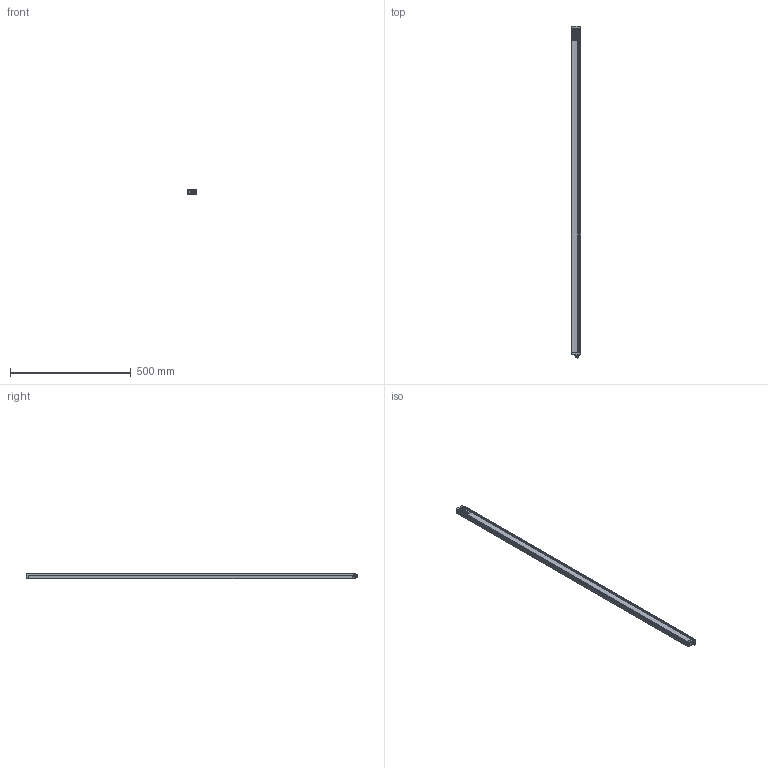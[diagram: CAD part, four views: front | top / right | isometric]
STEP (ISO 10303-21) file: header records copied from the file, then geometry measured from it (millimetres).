
FILE_DESCRIPTION(/* description */ (''),/* implementation_level */ '2;1');
FILE_NAME(/* name */ 'C:\Users\andre\SynologyDrive\Optoscan\Libreria Componenti\00 - Barriere\Polaris sorgente\Barriera Polaris RX\Polaris_1340_RX.stp',/* time_stamp */ '2021-06-04T11:52:58+02:00',/* author */ ('andre'),/* organization */ (''),/* preprocessor_version */ 'ST-DEVELOPER v18',/* originating_system */ 'Autodesk Inventor 2020',/* authorisation */ '');
FILE_SCHEMA (('AUTOMOTIVE_DESIGN { 1 0 10303 214 3 1 1 }'));
Length unit declared in the file: millimetre
Products named in the file (1): Polaris_1340_RX
Bounding box: 40.5 x 1377.3 x 20.75 mm (x, y, z)
Volume: 272957.8 mm3; surface area: 360109.3 mm2
Topology: 1 solids, 1 shells, 700 faces, 1926 edges, 1237 vertices
Faces by surface type: plane 319, cylinder 199, bspline 94, torus 70, sphere 10, cone 8
Full cylindrical faces by diameter (mm): 1 x8, 2.459 x4, 2.5 x4, 3 x4, 3.5 x4, 5.5 x4, 8 x1, 10.5 x2, 11.75 x9, 15.7 x1, 17.5 x1
Entity records: 28472 total; most frequent: CARTESIAN_POINT 10246, ORIENTED_EDGE 3826, DIRECTION 3447, EDGE_CURVE 1913, VERTEX_POINT 1237, AXIS2_PLACEMENT_3D 1211, LINE 1025, VECTOR 1025
